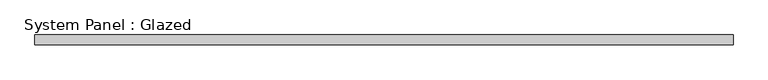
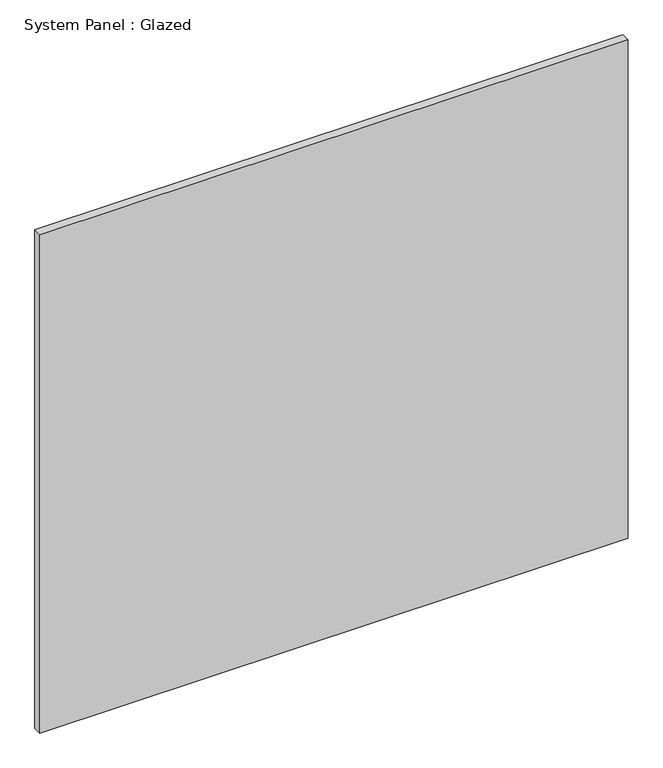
"""IFC4 building model written with IfcOpenShell, lengths in millimetres: plate geometry, System Panel : Glazed."""

from ifc_helpers import new_model, si_unit, origin, origin_with_axes, place, context, project, spatial, polyline, outline, extrude, source, transform, mapped, element, save


def system_panel_glazed_df2c046e(model_context):
    return source(origin(), model_context, "Body", "SweptSolid", [
        extrude(outline(polyline([(882.65, 19.05), (-882.65, 19.05), (-882.65, 44.45), (882.65, 44.45), (882.65, 19.05)])), origin_with_axes(), (0.0, 0.0, 1.0), 1581.15),
    ])


if __name__ == "__main__":
    model = new_model("IFC4")
    model_context = context("Model", 3, world=origin())
    ifc_project = project(units=[si_unit("LENGTHUNIT", "METRE", prefix="MILLI")], contexts=[model_context])
    site = spatial("IfcSite", under=ifc_project)
    building = spatial("IfcBuilding", under=site)
    placement = place(None, origin())
    system_panel_glazed_shape = system_panel_glazed_df2c046e(model_context)
    element("IfcPlate", 1, ObjectType="System Panel : Glazed", at=placement, inside=building, context=model_context, shape_type="MappedRepresentation", body=[
        mapped(system_panel_glazed_shape, transform((0.0, 0.0, 0.0), x_axis=(1.0, 0.0, 0.0), y_axis=(0.0, 1.0, 0.0), z_axis=(0.0, 0.0, 1.0))),
    ])
    save(model, "model.ifc")
